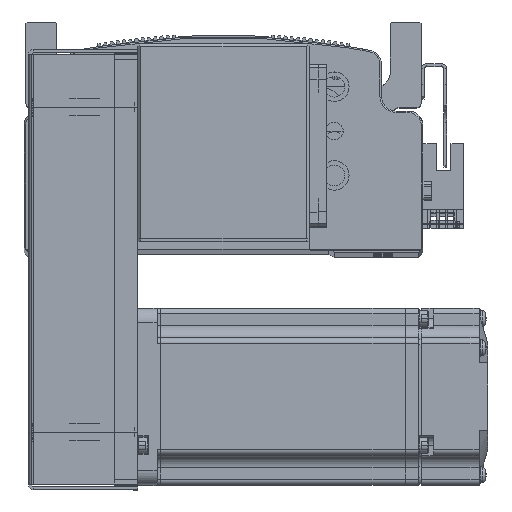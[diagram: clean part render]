
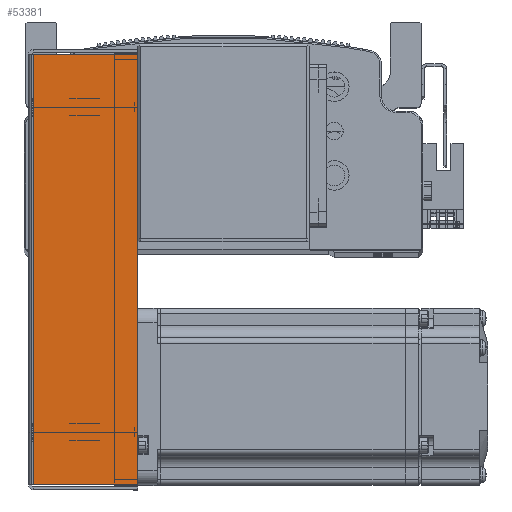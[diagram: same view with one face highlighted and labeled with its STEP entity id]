
A CAD part, top view. The second image highlights one B-rep face of the part: STEP entity #53381.
In plain terms, the highlighted planar face has unit normal (0, 0, 1) as drawn and (0, 0, -1) by its records, which use the part's own axes.
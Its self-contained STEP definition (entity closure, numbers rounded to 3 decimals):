
#2633 = DIRECTION ( 'NONE',  ( 1., 0., 0. ) ) ;
#2634 = CARTESIAN_POINT ( 'NONE',  ( 0., 36., -34.5 ) ) ;
#2738 = CARTESIAN_POINT ( 'NONE',  ( 72.793, 0., -34.5 ) ) ;
#2750 = DIRECTION ( 'NONE',  ( 1., 0., 0. ) ) ;
#2757 = CARTESIAN_POINT ( 'NONE',  ( 74.5, 0.737, -34.5 ) ) ;
#2759 = DIRECTION ( 'NONE',  ( 0., 1., 0. ) ) ;
#2846 = CARTESIAN_POINT ( 'NONE',  ( -72.793, 0., -34.5 ) ) ;
#2847 = DIRECTION ( 'NONE',  ( 0., 1., 0. ) ) ;
#3698 = VECTOR ( 'NONE', #2759, 1000. ) ;
#3724 = LINE ( 'NONE', #2738, #3698 ) ;
#3732 = LINE ( 'NONE', #2634, #3737 ) ;
#3737 = VECTOR ( 'NONE', #2633, 1000. ) ;
#3749 = LINE ( 'NONE', #2757, #3752 ) ;
#3752 = VECTOR ( 'NONE', #2750, 1000. ) ;
#3792 = VECTOR ( 'NONE', #2847, 1000. ) ;
#3810 = LINE ( 'NONE', #2846, #3792 ) ;
#29674 = DIRECTION ( 'NONE',  ( 0., -1., 0. ) ) ;
#29690 = PLANE ( 'NONE',  #72691 ) ;
#29699 = DIRECTION ( 'NONE',  ( 0., 0., 1. ) ) ;
#29714 = CARTESIAN_POINT ( 'NONE',  ( 0., 0., -34.5 ) ) ;
#32649 = VERTEX_POINT ( 'NONE', #45630 ) ;
#44114 = CARTESIAN_POINT ( 'NONE',  ( 72.793, 36., -34.5 ) ) ;
#44222 = CARTESIAN_POINT ( 'NONE',  ( 72.793, 0.737, -34.5 ) ) ;
#44228 = CARTESIAN_POINT ( 'NONE',  ( -72.793, 0.737, -34.5 ) ) ;
#45630 = CARTESIAN_POINT ( 'NONE',  ( -72.793, 36., -34.5 ) ) ;
#51776 = FACE_OUTER_BOUND ( 'NONE', #81726, .T. ) ;
#53381 = ADVANCED_FACE ( 'NONE', ( #51776 ), #29690, .F. ) ;
#56914 = ORIENTED_EDGE ( 'NONE', *, *, #63858, .T. ) ;
#56920 = ORIENTED_EDGE ( 'NONE', *, *, #63818, .F. ) ;
#56954 = ORIENTED_EDGE ( 'NONE', *, *, #63824, .F. ) ;
#56960 = ORIENTED_EDGE ( 'NONE', *, *, #63780, .T. ) ;
#63780 = EDGE_CURVE ( 'NONE', #32649, #74046, #3732, .T. ) ;
#63818 = EDGE_CURVE ( 'NONE', #74052, #74046, #3724, .T. ) ;
#63824 = EDGE_CURVE ( 'NONE', #74074, #74052, #3749, .T. ) ;
#63858 = EDGE_CURVE ( 'NONE', #74074, #32649, #3810, .T. ) ;
#72691 = AXIS2_PLACEMENT_3D ( 'NONE', #29714, #29699, #29674 ) ;
#74046 = VERTEX_POINT ( 'NONE', #44114 ) ;
#74052 = VERTEX_POINT ( 'NONE', #44222 ) ;
#74074 = VERTEX_POINT ( 'NONE', #44228 ) ;
#81726 = EDGE_LOOP ( 'NONE', ( #56954, #56914, #56960, #56920 ) ) ;
